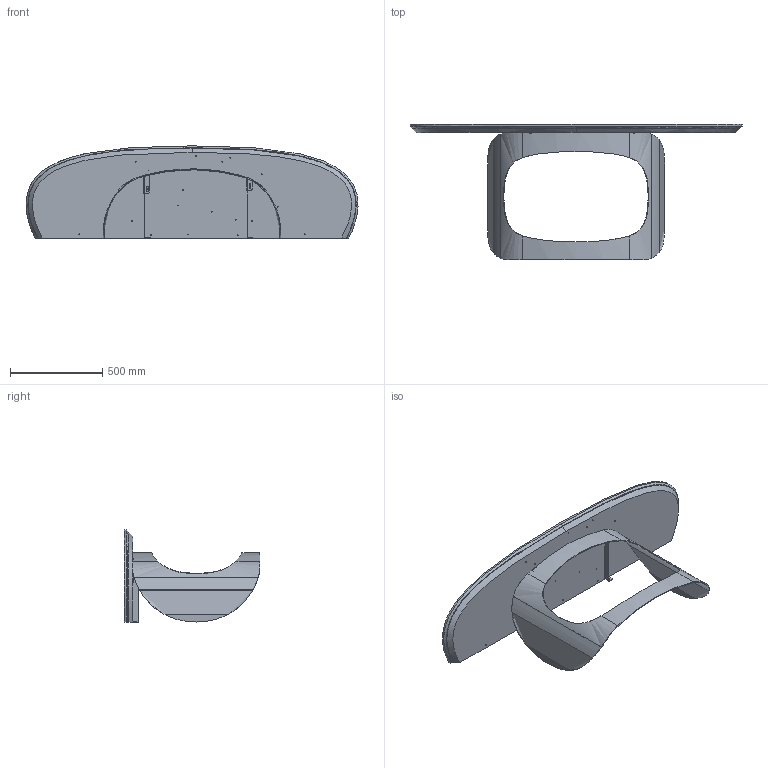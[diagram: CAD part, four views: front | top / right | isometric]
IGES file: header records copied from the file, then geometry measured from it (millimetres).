
Start section: SolidWorks IGES file using analytic representation for surfaces
Global section: file name: Y:\eforma\TECNICO\SOLIDWORKS\E-FORMA\3-CONSOLE\POLIFEMO CONSOLE\08 modelli 3D web\PO61M_Polifemo Console_180x50x73h_Marble Shaped.IGS; native system: SolidWorks 2022; preprocessor: SolidWorks 2022; author: eforma.tech; date: 240802.101725; units: millimetre
Bounding box: 1799.72 x 735 x 500.03 mm (x, y, z)
Volume: 37048173.8 mm3; surface area: 4432615.7 mm2
Topology: 7 solids, 7 shells, 289 faces, 753 edges, 474 vertices
Faces by surface type: revolution 153, plane 84, bspline 52
